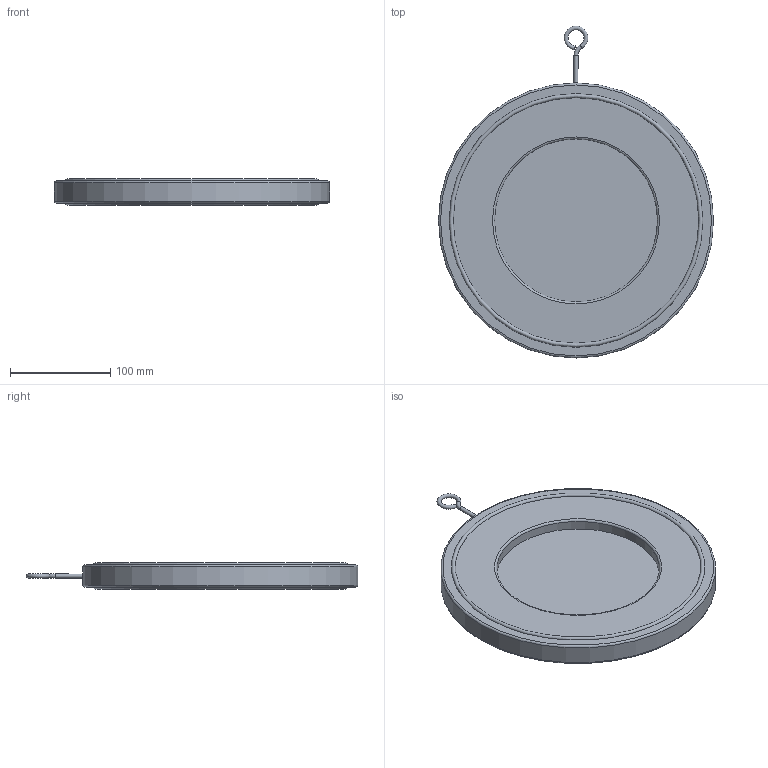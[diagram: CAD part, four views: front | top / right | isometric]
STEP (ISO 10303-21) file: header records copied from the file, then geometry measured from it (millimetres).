
FILE_DESCRIPTION( ( 'Unknown' ), '1' );
FILE_NAME( 'C:/Documents and Settings/Klaus/My Documents/Rootsi BPS 3D, Klaus/BPS 6505 swing check valve/STEP/BPS6505200 swing check valve DN200.stp', 'Unknown', ( 'Unknown' ), ( 'Unknown' ), 'PSStep 10.1', 'Unknown', ' ' );
FILE_SCHEMA( ( 'AUTOMOTIVE_DESIGN { 1 0 10303 214 1 1 1 1 }' ) );
Length unit declared in the file: millimetre
Products named in the file (1): 1
Bounding box: 275 x 331.96 x 26 mm (x, y, z)
Volume: 1061182.8 mm3; surface area: 160138.6 mm2
Topology: 1 solids, 1 shells, 226 faces, 553 edges, 362 vertices
Faces by surface type: plane 144, extrusion 55, cylinder 13, torus 11, bspline 2, cone 1
Full cylindrical faces by diameter (mm): 4 x1, 14 x2, 163 x1, 275 x1
Entity records: 10520 total; most frequent: CARTESIAN_POINT 3982, ORIENTED_EDGE 1052, DIRECTION 698, EDGE_CURVE 526, VERTEX_POINT 357, B_SPLINE_CURVE_WITH_KNOTS 330, EDGE_LOOP 285, VECTOR 254
